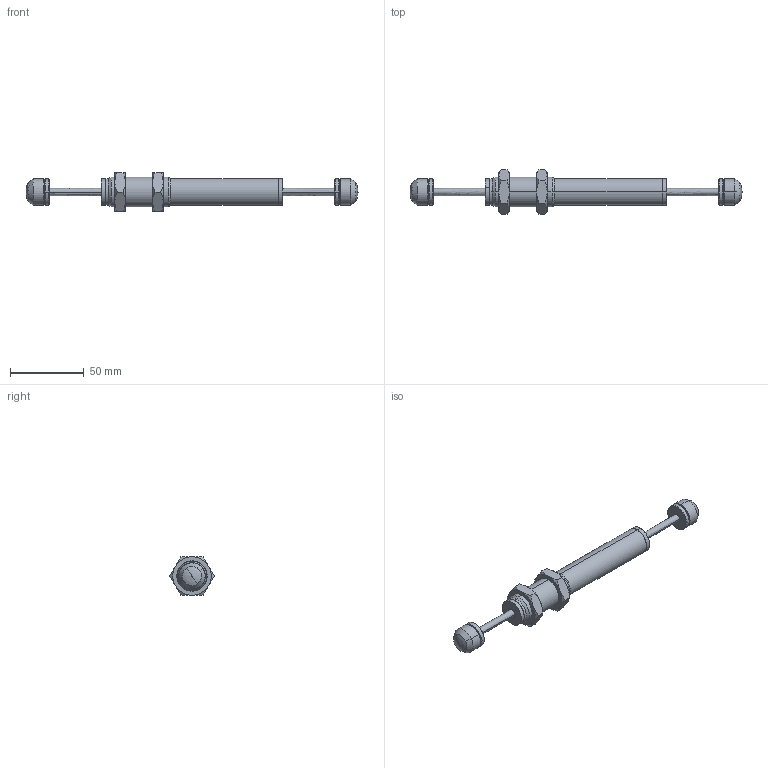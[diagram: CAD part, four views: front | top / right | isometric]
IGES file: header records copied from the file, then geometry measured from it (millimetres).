
Start section: SolidWorks IGES file using analytic representation for surfaces
Global section: file name: D:\IGS跡宒\ACD2035.IGS,1; native system: 5HSolidWorks 2013; preprocessor: SolidWorks 2013; author: Administrator; date: 160406.152556; units: inch
Bounding box: 224.6 x 30.02 x 26 mm (x, y, z)
Surface area: 15576.8 mm2 (no closed solid volume)
Topology: 0 solids, 0 shells, 113 faces, 1968 edges, 1966 vertices
Faces by surface type: revolution 86, bspline 27
